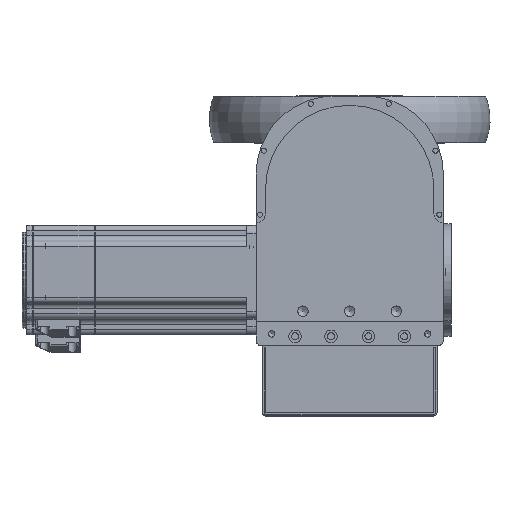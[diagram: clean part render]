
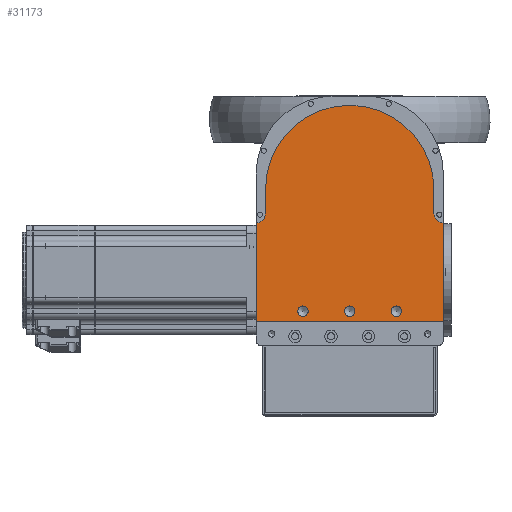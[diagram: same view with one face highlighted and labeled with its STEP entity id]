
A CAD part, top view. The second image highlights one B-rep face of the part: STEP entity #31173.
In plain terms, the highlighted planar face has unit normal (0, 0, 1).
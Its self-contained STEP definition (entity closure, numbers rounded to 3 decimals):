
#2070=LINE('',#54128,#4131);
#2072=LINE('',#54148,#4133);
#2088=LINE('',#54318,#4149);
#2089=LINE('',#54322,#4150);
#2090=LINE('',#54325,#4151);
#4131=VECTOR('',#40417,63.);
#4133=VECTOR('',#40439,63.);
#4149=VECTOR('',#40653,120.);
#4150=VECTOR('',#40656,15.5);
#4151=VECTOR('',#40659,15.5);
#5634=PLANE('',#33998);
#7142=FACE_BOUND('',#10657,.T.);
#7143=FACE_BOUND('',#10658,.T.);
#7144=FACE_BOUND('',#10659,.T.);
#8444=FACE_OUTER_BOUND('',#10656,.T.);
#10656=EDGE_LOOP('',(#25798,#25799,#25800,#25801,#25802,#25803,#25804,#25805));
#10657=EDGE_LOOP('',(#25806));
#10658=EDGE_LOOP('',(#25807));
#10659=EDGE_LOOP('',(#25808));
#12756=CIRCLE('',#33947,3.324);
#12758=CIRCLE('',#33951,3.324);
#12760=CIRCLE('',#33955,3.324);
#12779=CIRCLE('',#33999,6.);
#12780=CIRCLE('',#34000,6.);
#12781=CIRCLE('',#34001,54.);
#15212=VERTEX_POINT('',#54116);
#15217=VERTEX_POINT('',#54126);
#15224=VERTEX_POINT('',#54145);
#15225=VERTEX_POINT('',#54147);
#15256=VERTEX_POINT('',#54235);
#15258=VERTEX_POINT('',#54241);
#15260=VERTEX_POINT('',#54247);
#15280=VERTEX_POINT('',#54316);
#15281=VERTEX_POINT('',#54319);
#15282=VERTEX_POINT('',#54321);
#15283=VERTEX_POINT('',#54323);
#19016=EDGE_CURVE('',#15217,#15212,#2070,.T.);
#19023=EDGE_CURVE('',#15224,#15225,#2072,.T.);
#19059=EDGE_CURVE('',#15256,#15256,#12756,.T.);
#19061=EDGE_CURVE('',#15258,#15258,#12758,.T.);
#19063=EDGE_CURVE('',#15260,#15260,#12760,.T.);
#19087=EDGE_CURVE('',#15225,#15280,#12779,.T.);
#19088=EDGE_CURVE('',#15212,#15224,#2088,.T.);
#19089=EDGE_CURVE('',#15281,#15217,#12780,.T.);
#19090=EDGE_CURVE('',#15282,#15281,#2089,.T.);
#19091=EDGE_CURVE('',#15283,#15282,#12781,.T.);
#19092=EDGE_CURVE('',#15280,#15283,#2090,.T.);
#25798=ORIENTED_EDGE('',*,*,#19087,.F.);
#25799=ORIENTED_EDGE('',*,*,#19023,.F.);
#25800=ORIENTED_EDGE('',*,*,#19088,.F.);
#25801=ORIENTED_EDGE('',*,*,#19016,.F.);
#25802=ORIENTED_EDGE('',*,*,#19089,.F.);
#25803=ORIENTED_EDGE('',*,*,#19090,.F.);
#25804=ORIENTED_EDGE('',*,*,#19091,.F.);
#25805=ORIENTED_EDGE('',*,*,#19092,.F.);
#25806=ORIENTED_EDGE('',*,*,#19059,.T.);
#25807=ORIENTED_EDGE('',*,*,#19061,.T.);
#25808=ORIENTED_EDGE('',*,*,#19063,.T.);
#31173=ADVANCED_FACE('',(#8444,#7142,#7143,#7144),#5634,.F.);
#33947=AXIS2_PLACEMENT_3D('',#54236,#40542,#40543);
#33951=AXIS2_PLACEMENT_3D('',#54242,#40550,#40551);
#33955=AXIS2_PLACEMENT_3D('',#54248,#40558,#40559);
#33998=AXIS2_PLACEMENT_3D('',#54315,#40649,#40650);
#33999=AXIS2_PLACEMENT_3D('',#54317,#40651,#40652);
#34000=AXIS2_PLACEMENT_3D('',#54320,#40654,#40655);
#34001=AXIS2_PLACEMENT_3D('',#54324,#40657,#40658);
#40417=DIRECTION('',(0.,-1.,0.));
#40439=DIRECTION('',(0.,1.,0.));
#40542=DIRECTION('center_axis',(0.,0.,-1.));
#40543=DIRECTION('ref_axis',(1.,0.,0.));
#40550=DIRECTION('center_axis',(0.,0.,-1.));
#40551=DIRECTION('ref_axis',(1.,0.,0.));
#40558=DIRECTION('center_axis',(0.,0.,-1.));
#40559=DIRECTION('ref_axis',(1.,0.,0.));
#40649=DIRECTION('center_axis',(0.,0.,-1.));
#40650=DIRECTION('ref_axis',(-1.,0.,0.));
#40651=DIRECTION('center_axis',(0.,0.,1.));
#40652=DIRECTION('ref_axis',(0.,-1.,0.));
#40653=DIRECTION('',(-1.,0.,0.));
#40654=DIRECTION('center_axis',(0.,0.,1.));
#40655=DIRECTION('ref_axis',(-1.,0.,0.));
#40656=DIRECTION('',(0.,-1.,0.));
#40657=DIRECTION('center_axis',(0.,0.,-1.));
#40658=DIRECTION('ref_axis',(-1.,0.,0.));
#40659=DIRECTION('',(0.,1.,0.));
#54116=CARTESIAN_POINT('',(60.,-84.5,340.));
#54126=CARTESIAN_POINT('',(60.,-21.5,340.));
#54128=CARTESIAN_POINT('',(60.,-21.5,340.));
#54145=CARTESIAN_POINT('',(-60.,-84.5,340.));
#54147=CARTESIAN_POINT('',(-60.,-21.5,340.));
#54148=CARTESIAN_POINT('',(-60.,-84.5,340.));
#54235=CARTESIAN_POINT('',(33.324,-78.,340.));
#54236=CARTESIAN_POINT('Origin',(30.,-78.,340.));
#54241=CARTESIAN_POINT('',(3.324,-78.,340.));
#54242=CARTESIAN_POINT('Origin',(0.,-78.,340.));
#54247=CARTESIAN_POINT('',(-26.677,-78.,340.));
#54248=CARTESIAN_POINT('Origin',(-30.,-78.,340.));
#54315=CARTESIAN_POINT('Origin',(-70.,0.,340.));
#54316=CARTESIAN_POINT('',(-54.,-15.5,340.));
#54317=CARTESIAN_POINT('Origin',(-60.,-15.5,340.));
#54318=CARTESIAN_POINT('',(60.,-84.5,340.));
#54319=CARTESIAN_POINT('',(54.,-15.5,340.));
#54320=CARTESIAN_POINT('Origin',(60.,-15.5,340.));
#54321=CARTESIAN_POINT('',(54.,0.,340.));
#54322=CARTESIAN_POINT('',(54.,0.,340.));
#54323=CARTESIAN_POINT('',(-54.,0.,340.));
#54324=CARTESIAN_POINT('Origin',(0.,0.,340.));
#54325=CARTESIAN_POINT('',(-54.,-15.5,340.));
